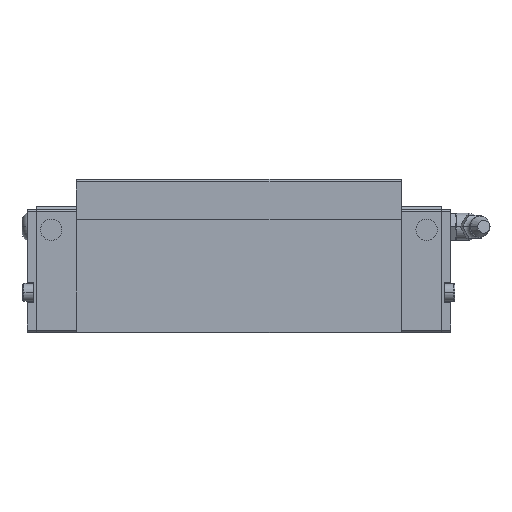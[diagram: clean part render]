
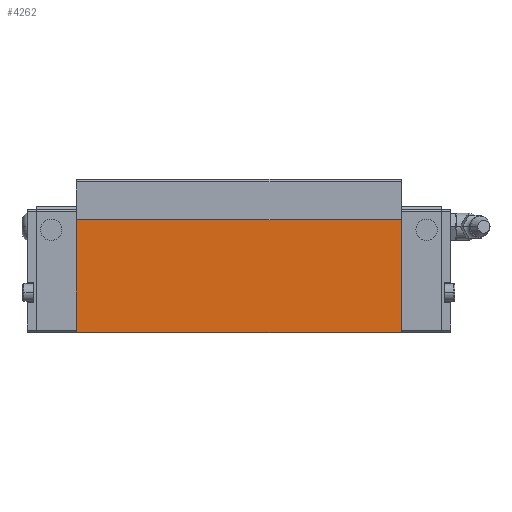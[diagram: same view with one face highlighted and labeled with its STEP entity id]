
A CAD part, left-side view. The second image highlights one B-rep face of the part: STEP entity #4262.
In plain terms, the highlighted planar face has unit normal (-1, 0, 0).
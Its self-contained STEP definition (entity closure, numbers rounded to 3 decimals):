
#1608=EDGE_CURVE('',#1872,#4136,#4661,.T.);
#1872=VERTEX_POINT('',#4945);
#2492=EDGE_CURVE('',#1872,#3582,#5634,.T.);
#2716=VERTEX_POINT('',#5884);
#2904=EDGE_CURVE('',#2716,#4136,#6092,.T.);
#3048=EDGE_CURVE('',#3582,#2716,#6255,.T.);
#3582=VERTEX_POINT('',#6847);
#4136=VERTEX_POINT('',#7459);
#4262=ADVANCED_FACE('',(#7598),#7599,.T.);
#4661=LINE('',#8045,#8046);
#4945=CARTESIAN_POINT('',(-42.2,19.6,54.0));
#5634=LINE('',#9534,#9535);
#5884=CARTESIAN_POINT('',(-42.2,148.4,9.4));
#6092=LINE('',#10238,#10239);
#6255=LINE('',#10464,#10465);
#6847=CARTESIAN_POINT('',(-42.2,19.6,9.4));
#7459=CARTESIAN_POINT('',(-42.2,148.4,54.0));
#7598=FACE_OUTER_BOUND('',#12476,.T.);
#7599=PLANE('',#12477);
#8045=CARTESIAN_POINT('',(-42.2,84.0,54.0));
#8046=VECTOR('',#13130,1.0);
#9534=CARTESIAN_POINT('',(-42.2,19.6,29.3));
#9535=VECTOR('',#14121,1.0);
#10238=CARTESIAN_POINT('',(-42.2,148.4,29.3));
#10239=VECTOR('',#14631,1.0);
#10464=CARTESIAN_POINT('',(-42.2,116.2,9.4));
#10465=VECTOR('',#14825,1.0);
#12476=EDGE_LOOP('',(#16387,#16388,#16389,#16390));
#12477=AXIS2_PLACEMENT_3D('',#16391,#16392,#16393);
#13130=DIRECTION('',(0.0,1.0,0.0));
#14121=DIRECTION('',(-0.0,-0.0,-1.0));
#14631=DIRECTION('',(0.0,0.0,1.0));
#14825=DIRECTION('',(0.0,1.0,-0.0));
#16387=ORIENTED_EDGE('',*,*,#2904,.F.);
#16388=ORIENTED_EDGE('',*,*,#3048,.F.);
#16389=ORIENTED_EDGE('',*,*,#2492,.F.);
#16390=ORIENTED_EDGE('',*,*,#1608,.T.);
#16391=CARTESIAN_POINT('',(-42.2,84.0,19.0));
#16392=DIRECTION('',(-1.0,0.0,0.0));
#16393=DIRECTION('',(0.0,0.0,1.0));
